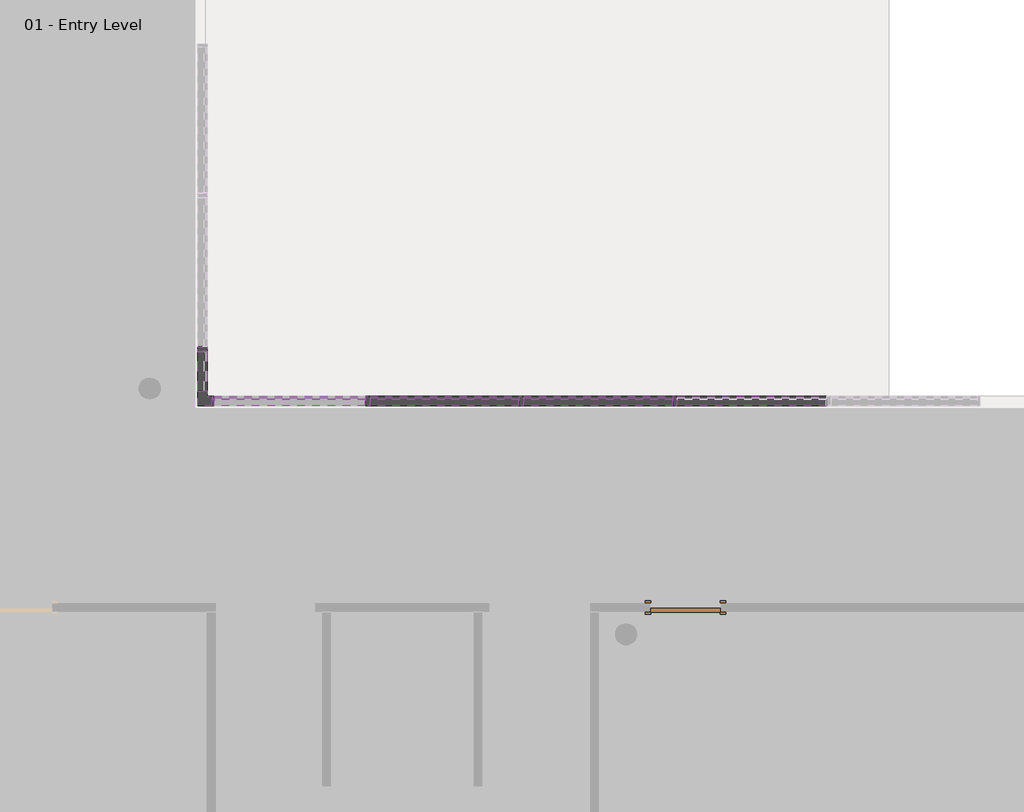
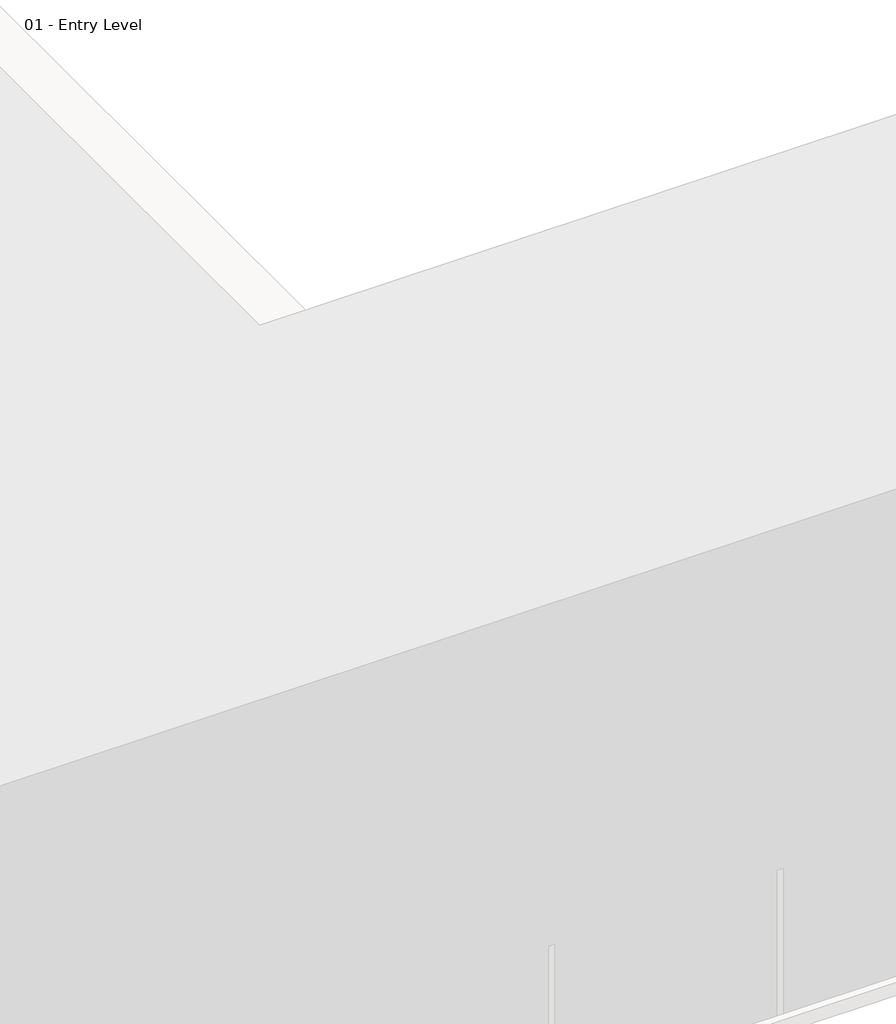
# One storey, part 9 of 34: 99 members, 28 plates, 1 door.
"""IFC4 building model written with IfcOpenShell, lengths in millimetres."""

from ifc_helpers import new_model, si_unit, origin, place, context, project, spatial, transform, mapped, element, save
from components import door_a1797ceb, member_863be36e, member_2b49869a, member_391b434c, member_9e90ae50, member_274b5bb4, member_3f1e2ae8, member_cfd492dc, member_3d213ca6, member_0f16ceef, member_ba732fc4, system_panel_glazed_1b9d6098, system_panel_glazed_70da479d, system_panel_glazed_75599714, system_panel_glazed_d6bfc804

model = new_model("IFC4")

# Units and contexts
model_context = context("Model", 3, world=origin())
ifc_project = project(units=[si_unit("LENGTHUNIT", "METRE", prefix="MILLI")], contexts=[model_context])

# Site, building, storey
site = spatial("IfcSite", under=ifc_project)
building = spatial("IfcBuilding", under=site)
storey = spatial("IfcBuildingStorey", under=building, Name="01 - Entry Level", Elevation=0.0)

# Door
placement = place(None, origin())
door_shape = door_a1797ceb(model_context)
element("IfcDoor", 1, ObjectType="Single-Flush : 36\" x 84\"", at=placement, inside=storey, context=model_context, shape_type="MappedRepresentation", body=[
    mapped(door_shape, transform((23572.1207476, 8270.8, 0.0), x_axis=(-1.0, 0.0, 0.0), y_axis=(0.0, -1.0, 0.0), z_axis=(0.0, 0.0, 1.0))),
])

# Members
member_shape = member_863be36e(model_context)
element("IfcMember", 2, ObjectType="L Corner Mullion : 5\" x 5\" Corner", at=placement, inside=storey, context=model_context, shape_type="MappedRepresentation", body=[
    mapped(member_shape, transform((17184.0207476, 11001.3, 6096.0), x_axis=(0.0, -1.0, 0.0), y_axis=(1.0, 0.0, 0.0), z_axis=(0.0, 0.0, 1.0))),
])
element("IfcMember", 3, ObjectType="L Corner Mullion : 5\" x 5\" Corner", at=placement, inside=storey, context=model_context, shape_type="MappedRepresentation", body=[
    mapped(member_shape, transform((17184.0207476, 11001.3, 1219.2), x_axis=(0.0, -1.0, 0.0), y_axis=(1.0, 0.0, 0.0), z_axis=(0.0, 0.0, 1.0))),
])
element("IfcMember", 4, ObjectType="L Corner Mullion : 5\" x 5\" Corner", at=placement, inside=storey, context=model_context, shape_type="MappedRepresentation", body=[
    mapped(member_shape, transform((17184.0207476, 11001.3, 8534.4), x_axis=(0.0, -1.0, 0.0), y_axis=(1.0, 0.0, 0.0), z_axis=(0.0, 0.0, 1.0))),
])
element("IfcMember", 5, ObjectType="L Corner Mullion : 5\" x 5\" Corner", at=placement, inside=storey, context=model_context, shape_type="MappedRepresentation", body=[
    mapped(member_shape, transform((17184.0207476, 11001.3, 2438.4), x_axis=(0.0, -1.0, 0.0), y_axis=(1.0, 0.0, 0.0), z_axis=(0.0, 0.0, 1.0))),
])
element("IfcMember", 6, ObjectType="L Corner Mullion : 5\" x 5\" Corner", at=placement, inside=storey, context=model_context, shape_type="MappedRepresentation", body=[
    mapped(member_shape, transform((17184.0207476, 11001.3, 3657.6), x_axis=(0.0, -1.0, 0.0), y_axis=(1.0, 0.0, 0.0), z_axis=(0.0, 0.0, 1.0))),
])
element("IfcMember", 7, ObjectType="L Corner Mullion : 5\" x 5\" Corner", at=placement, inside=storey, context=model_context, shape_type="MappedRepresentation", body=[
    mapped(member_shape, transform((17184.0207476, 11001.3, 4876.8), x_axis=(0.0, -1.0, 0.0), y_axis=(1.0, 0.0, 0.0), z_axis=(0.0, 0.0, 1.0))),
])
element("IfcMember", 8, ObjectType="L Corner Mullion : 5\" x 5\" Corner", at=placement, inside=storey, context=model_context, shape_type="MappedRepresentation", body=[
    mapped(member_shape, transform((17184.0207476, 11001.3, 9753.6), x_axis=(0.0, -1.0, 0.0), y_axis=(1.0, 0.0, 0.0), z_axis=(0.0, 0.0, 1.0))),
])
member_2_shape = member_2b49869a(model_context)
element("IfcMember", 9, ObjectType="Rectangular Mullion : 2.5\" x 5\" rectangular", at=placement, inside=storey, context=model_context, shape_type="MappedRepresentation", body=[
    mapped(member_2_shape, transform((23432.4207476, 11001.3, 9753.6), x_axis=(-1.0, 0.0, 0.0), y_axis=(0.0, 1.0, 0.0), z_axis=(0.0, 0.0, -1.0))),
])
element("IfcMember", 10, ObjectType="Rectangular Mullion : 2.5\" x 5\" rectangular", at=placement, inside=storey, context=model_context, shape_type="MappedRepresentation", body=[
    mapped(member_2_shape, transform((21400.4207476, 11001.3, 9753.6), x_axis=(-1.0, 0.0, 0.0), y_axis=(0.0, 1.0, 0.0), z_axis=(0.0, 0.0, -1.0))),
])
element("IfcMember", 11, ObjectType="Rectangular Mullion : 2.5\" x 5\" rectangular", at=placement, inside=storey, context=model_context, shape_type="MappedRepresentation", body=[
    mapped(member_2_shape, transform((19368.4207476, 11001.3, 9753.6), x_axis=(-1.0, 0.0, 0.0), y_axis=(0.0, 1.0, 0.0), z_axis=(0.0, 0.0, -1.0))),
])
element("IfcMember", 12, ObjectType="Rectangular Mullion : 2.5\" x 5\" rectangular", at=placement, inside=storey, context=model_context, shape_type="MappedRepresentation", body=[
    mapped(member_2_shape, transform((17184.0207476, 11687.1, 9753.6), x_axis=(0.0, 1.0, 0.0), y_axis=(1.0, 0.0, 0.0), z_axis=(0.0, 0.0, -1.0))),
])
member_3_shape = member_391b434c(model_context)
element("IfcMember", 13, ObjectType="Rectangular Mullion : 2.5\" x 5\" rectangular", at=placement, inside=storey, context=model_context, shape_type="MappedRepresentation", body=[
    mapped(member_3_shape, transform((23464.1707476, 11001.3, 10972.8), x_axis=(0.0, 0.0, 1.0), y_axis=(0.0, 1.0, 0.0), z_axis=(-1.0, 0.0, 0.0))),
])
element("IfcMember", 14, ObjectType="Rectangular Mullion : 2.5\" x 5\" rectangular", at=placement, inside=storey, context=model_context, shape_type="MappedRepresentation", body=[
    mapped(member_3_shape, transform((21432.1707476, 11001.3, 10972.8), x_axis=(0.0, 0.0, 1.0), y_axis=(0.0, 1.0, 0.0), z_axis=(-1.0, 0.0, 0.0))),
])
element("IfcMember", 15, ObjectType="Rectangular Mullion : 2.5\" x 5\" rectangular", at=placement, inside=storey, context=model_context, shape_type="MappedRepresentation", body=[
    mapped(member_3_shape, transform((19400.1707476, 11001.3, 10972.8), x_axis=(0.0, 0.0, 1.0), y_axis=(0.0, 1.0, 0.0), z_axis=(-1.0, 0.0, 0.0))),
])
element("IfcMember", 16, ObjectType="Rectangular Mullion : 2.5\" x 5\" rectangular", at=placement, inside=storey, context=model_context, shape_type="MappedRepresentation", body=[
    mapped(member_3_shape, transform((23400.6707476, 11001.3, 0.0), x_axis=(0.0, 0.0, -1.0), y_axis=(0.0, 1.0, 0.0), z_axis=(1.0, 0.0, 0.0))),
])
element("IfcMember", 17, ObjectType="Rectangular Mullion : 2.5\" x 5\" rectangular", at=placement, inside=storey, context=model_context, shape_type="MappedRepresentation", body=[
    mapped(member_3_shape, transform((21368.6707476, 11001.3, 0.0), x_axis=(0.0, 0.0, -1.0), y_axis=(0.0, 1.0, 0.0), z_axis=(1.0, 0.0, 0.0))),
])
element("IfcMember", 18, ObjectType="Rectangular Mullion : 2.5\" x 5\" rectangular", at=placement, inside=storey, context=model_context, shape_type="MappedRepresentation", body=[
    mapped(member_3_shape, transform((17184.0207476, 11718.85, 0.0), x_axis=(0.0, 0.0, -1.0), y_axis=(1.0, 0.0, 0.0), z_axis=(0.0, -1.0, 0.0))),
])
member_4_shape = member_9e90ae50(model_context)
element("IfcMember", 19, ObjectType="Rectangular Mullion : 2.5\" x 5\" rectangular", at=placement, inside=storey, context=model_context, shape_type="MappedRepresentation", body=[
    mapped(member_4_shape, transform((23464.1707476, 11001.3, 1219.2), x_axis=(0.0, 0.0, 1.0), y_axis=(0.0, 1.0, 0.0), z_axis=(-1.0, 0.0, 0.0))),
])
element("IfcMember", 20, ObjectType="Rectangular Mullion : 2.5\" x 5\" rectangular", at=placement, inside=storey, context=model_context, shape_type="MappedRepresentation", body=[
    mapped(member_4_shape, transform((21432.1707476, 11001.3, 1219.2), x_axis=(0.0, 0.0, 1.0), y_axis=(0.0, 1.0, 0.0), z_axis=(-1.0, 0.0, 0.0))),
])
element("IfcMember", 21, ObjectType="Rectangular Mullion : 2.5\" x 5\" rectangular", at=placement, inside=storey, context=model_context, shape_type="MappedRepresentation", body=[
    mapped(member_4_shape, transform((19400.1707476, 11001.3, 1219.2), x_axis=(0.0, 0.0, 1.0), y_axis=(0.0, 1.0, 0.0), z_axis=(-1.0, 0.0, 0.0))),
])
element("IfcMember", 22, ObjectType="Rectangular Mullion : 2.5\" x 5\" rectangular", at=placement, inside=storey, context=model_context, shape_type="MappedRepresentation", body=[
    mapped(member_4_shape, transform((23464.1707476, 11001.3, 2438.4), x_axis=(0.0, 0.0, 1.0), y_axis=(0.0, 1.0, 0.0), z_axis=(-1.0, 0.0, 0.0))),
])
element("IfcMember", 23, ObjectType="Rectangular Mullion : 2.5\" x 5\" rectangular", at=placement, inside=storey, context=model_context, shape_type="MappedRepresentation", body=[
    mapped(member_4_shape, transform((21432.1707476, 11001.3, 2438.4), x_axis=(0.0, 0.0, 1.0), y_axis=(0.0, 1.0, 0.0), z_axis=(-1.0, 0.0, 0.0))),
])
element("IfcMember", 24, ObjectType="Rectangular Mullion : 2.5\" x 5\" rectangular", at=placement, inside=storey, context=model_context, shape_type="MappedRepresentation", body=[
    mapped(member_4_shape, transform((19400.1707476, 11001.3, 2438.4), x_axis=(0.0, 0.0, 1.0), y_axis=(0.0, 1.0, 0.0), z_axis=(-1.0, 0.0, 0.0))),
])
element("IfcMember", 25, ObjectType="Rectangular Mullion : 2.5\" x 5\" rectangular", at=placement, inside=storey, context=model_context, shape_type="MappedRepresentation", body=[
    mapped(member_4_shape, transform((23464.1707476, 11001.3, 3657.6), x_axis=(0.0, 0.0, 1.0), y_axis=(0.0, 1.0, 0.0), z_axis=(-1.0, 0.0, 0.0))),
])
element("IfcMember", 26, ObjectType="Rectangular Mullion : 2.5\" x 5\" rectangular", at=placement, inside=storey, context=model_context, shape_type="MappedRepresentation", body=[
    mapped(member_4_shape, transform((21432.1707476, 11001.3, 3657.6), x_axis=(0.0, 0.0, 1.0), y_axis=(0.0, 1.0, 0.0), z_axis=(-1.0, 0.0, 0.0))),
])
element("IfcMember", 27, ObjectType="Rectangular Mullion : 2.5\" x 5\" rectangular", at=placement, inside=storey, context=model_context, shape_type="MappedRepresentation", body=[
    mapped(member_4_shape, transform((19400.1707476, 11001.3, 3657.6), x_axis=(0.0, 0.0, 1.0), y_axis=(0.0, 1.0, 0.0), z_axis=(-1.0, 0.0, 0.0))),
])
element("IfcMember", 28, ObjectType="Rectangular Mullion : 2.5\" x 5\" rectangular", at=placement, inside=storey, context=model_context, shape_type="MappedRepresentation", body=[
    mapped(member_4_shape, transform((23464.1707476, 11001.3, 4876.8), x_axis=(0.0, 0.0, 1.0), y_axis=(0.0, 1.0, 0.0), z_axis=(-1.0, 0.0, 0.0))),
])
element("IfcMember", 29, ObjectType="Rectangular Mullion : 2.5\" x 5\" rectangular", at=placement, inside=storey, context=model_context, shape_type="MappedRepresentation", body=[
    mapped(member_4_shape, transform((21432.1707476, 11001.3, 4876.8), x_axis=(0.0, 0.0, 1.0), y_axis=(0.0, 1.0, 0.0), z_axis=(-1.0, 0.0, 0.0))),
])
element("IfcMember", 30, ObjectType="Rectangular Mullion : 2.5\" x 5\" rectangular", at=placement, inside=storey, context=model_context, shape_type="MappedRepresentation", body=[
    mapped(member_4_shape, transform((19400.1707476, 11001.3, 4876.8), x_axis=(0.0, 0.0, 1.0), y_axis=(0.0, 1.0, 0.0), z_axis=(-1.0, 0.0, 0.0))),
])
element("IfcMember", 31, ObjectType="Rectangular Mullion : 2.5\" x 5\" rectangular", at=placement, inside=storey, context=model_context, shape_type="MappedRepresentation", body=[
    mapped(member_4_shape, transform((23464.1707476, 11001.3, 6096.0), x_axis=(0.0, 0.0, 1.0), y_axis=(0.0, 1.0, 0.0), z_axis=(-1.0, 0.0, 0.0))),
])
element("IfcMember", 32, ObjectType="Rectangular Mullion : 2.5\" x 5\" rectangular", at=placement, inside=storey, context=model_context, shape_type="MappedRepresentation", body=[
    mapped(member_4_shape, transform((21432.1707476, 11001.3, 6096.0), x_axis=(0.0, 0.0, 1.0), y_axis=(0.0, 1.0, 0.0), z_axis=(-1.0, 0.0, 0.0))),
])
element("IfcMember", 33, ObjectType="Rectangular Mullion : 2.5\" x 5\" rectangular", at=placement, inside=storey, context=model_context, shape_type="MappedRepresentation", body=[
    mapped(member_4_shape, transform((19400.1707476, 11001.3, 6096.0), x_axis=(0.0, 0.0, 1.0), y_axis=(0.0, 1.0, 0.0), z_axis=(-1.0, 0.0, 0.0))),
])
element("IfcMember", 34, ObjectType="Rectangular Mullion : 2.5\" x 5\" rectangular", at=placement, inside=storey, context=model_context, shape_type="MappedRepresentation", body=[
    mapped(member_4_shape, transform((23464.1707476, 11001.3, 7315.2), x_axis=(0.0, 0.0, 1.0), y_axis=(0.0, 1.0, 0.0), z_axis=(-1.0, 0.0, 0.0))),
])
element("IfcMember", 35, ObjectType="Rectangular Mullion : 2.5\" x 5\" rectangular", at=placement, inside=storey, context=model_context, shape_type="MappedRepresentation", body=[
    mapped(member_4_shape, transform((21432.1707476, 11001.3, 7315.2), x_axis=(0.0, 0.0, 1.0), y_axis=(0.0, 1.0, 0.0), z_axis=(-1.0, 0.0, 0.0))),
])
element("IfcMember", 36, ObjectType="Rectangular Mullion : 2.5\" x 5\" rectangular", at=placement, inside=storey, context=model_context, shape_type="MappedRepresentation", body=[
    mapped(member_4_shape, transform((19400.1707476, 11001.3, 7315.2), x_axis=(0.0, 0.0, 1.0), y_axis=(0.0, 1.0, 0.0), z_axis=(-1.0, 0.0, 0.0))),
])
element("IfcMember", 37, ObjectType="Rectangular Mullion : 2.5\" x 5\" rectangular", at=placement, inside=storey, context=model_context, shape_type="MappedRepresentation", body=[
    mapped(member_4_shape, transform((23464.1707476, 11001.3, 8534.4), x_axis=(0.0, 0.0, 1.0), y_axis=(0.0, 1.0, 0.0), z_axis=(-1.0, 0.0, 0.0))),
])
element("IfcMember", 38, ObjectType="Rectangular Mullion : 2.5\" x 5\" rectangular", at=placement, inside=storey, context=model_context, shape_type="MappedRepresentation", body=[
    mapped(member_4_shape, transform((21432.1707476, 11001.3, 8534.4), x_axis=(0.0, 0.0, 1.0), y_axis=(0.0, 1.0, 0.0), z_axis=(-1.0, 0.0, 0.0))),
])
element("IfcMember", 39, ObjectType="Rectangular Mullion : 2.5\" x 5\" rectangular", at=placement, inside=storey, context=model_context, shape_type="MappedRepresentation", body=[
    mapped(member_4_shape, transform((19400.1707476, 11001.3, 8534.4), x_axis=(0.0, 0.0, 1.0), y_axis=(0.0, 1.0, 0.0), z_axis=(-1.0, 0.0, 0.0))),
])
element("IfcMember", 40, ObjectType="Rectangular Mullion : 2.5\" x 5\" rectangular", at=placement, inside=storey, context=model_context, shape_type="MappedRepresentation", body=[
    mapped(member_4_shape, transform((23464.1707476, 11001.3, 9753.6), x_axis=(0.0, 0.0, 1.0), y_axis=(0.0, 1.0, 0.0), z_axis=(-1.0, 0.0, 0.0))),
])
element("IfcMember", 41, ObjectType="Rectangular Mullion : 2.5\" x 5\" rectangular", at=placement, inside=storey, context=model_context, shape_type="MappedRepresentation", body=[
    mapped(member_4_shape, transform((21432.1707476, 11001.3, 9753.6), x_axis=(0.0, 0.0, 1.0), y_axis=(0.0, 1.0, 0.0), z_axis=(-1.0, 0.0, 0.0))),
])
element("IfcMember", 42, ObjectType="Rectangular Mullion : 2.5\" x 5\" rectangular", at=placement, inside=storey, context=model_context, shape_type="MappedRepresentation", body=[
    mapped(member_4_shape, transform((19400.1707476, 11001.3, 9753.6), x_axis=(0.0, 0.0, 1.0), y_axis=(0.0, 1.0, 0.0), z_axis=(-1.0, 0.0, 0.0))),
])
element("IfcMember", 43, ObjectType="Rectangular Mullion : 2.5\" x 5\" rectangular", at=placement, inside=storey, context=model_context, shape_type="MappedRepresentation", body=[
    mapped(member_2_shape, transform((23432.4207476, 11001.3, 0.0), x_axis=(-1.0, 0.0, 0.0), y_axis=(0.0, 1.0, 0.0), z_axis=(0.0, 0.0, -1.0))),
])
element("IfcMember", 44, ObjectType="Rectangular Mullion : 2.5\" x 5\" rectangular", at=placement, inside=storey, context=model_context, shape_type="MappedRepresentation", body=[
    mapped(member_2_shape, transform((21400.4207476, 11001.3, 0.0), x_axis=(-1.0, 0.0, 0.0), y_axis=(0.0, 1.0, 0.0), z_axis=(0.0, 0.0, -1.0))),
])
element("IfcMember", 45, ObjectType="Rectangular Mullion : 2.5\" x 5\" rectangular", at=placement, inside=storey, context=model_context, shape_type="MappedRepresentation", body=[
    mapped(member_2_shape, transform((19368.4207476, 11001.3, 0.0), x_axis=(-1.0, 0.0, 0.0), y_axis=(0.0, 1.0, 0.0), z_axis=(0.0, 0.0, -1.0))),
])
element("IfcMember", 46, ObjectType="Rectangular Mullion : 2.5\" x 5\" rectangular", at=placement, inside=storey, context=model_context, shape_type="MappedRepresentation", body=[
    mapped(member_2_shape, transform((17184.0207476, 11687.1, 0.0), x_axis=(0.0, 1.0, 0.0), y_axis=(1.0, 0.0, 0.0), z_axis=(0.0, 0.0, -1.0))),
])
element("IfcMember", 47, ObjectType="Rectangular Mullion : 2.5\" x 5\" rectangular", at=placement, inside=storey, context=model_context, shape_type="MappedRepresentation", body=[
    mapped(member_2_shape, transform((23432.4207476, 11001.3, 1219.2), x_axis=(-1.0, 0.0, 0.0), y_axis=(0.0, 1.0, 0.0), z_axis=(0.0, 0.0, -1.0))),
])
element("IfcMember", 48, ObjectType="Rectangular Mullion : 2.5\" x 5\" rectangular", at=placement, inside=storey, context=model_context, shape_type="MappedRepresentation", body=[
    mapped(member_2_shape, transform((21400.4207476, 11001.3, 1219.2), x_axis=(-1.0, 0.0, 0.0), y_axis=(0.0, 1.0, 0.0), z_axis=(0.0, 0.0, -1.0))),
])
element("IfcMember", 49, ObjectType="Rectangular Mullion : 2.5\" x 5\" rectangular", at=placement, inside=storey, context=model_context, shape_type="MappedRepresentation", body=[
    mapped(member_2_shape, transform((19368.4207476, 11001.3, 1219.2), x_axis=(-1.0, 0.0, 0.0), y_axis=(0.0, 1.0, 0.0), z_axis=(0.0, 0.0, -1.0))),
])
element("IfcMember", 50, ObjectType="Rectangular Mullion : 2.5\" x 5\" rectangular", at=placement, inside=storey, context=model_context, shape_type="MappedRepresentation", body=[
    mapped(member_2_shape, transform((23432.4207476, 11001.3, 2438.4), x_axis=(-1.0, 0.0, 0.0), y_axis=(0.0, 1.0, 0.0), z_axis=(0.0, 0.0, -1.0))),
])
element("IfcMember", 51, ObjectType="Rectangular Mullion : 2.5\" x 5\" rectangular", at=placement, inside=storey, context=model_context, shape_type="MappedRepresentation", body=[
    mapped(member_2_shape, transform((21400.4207476, 11001.3, 2438.4), x_axis=(-1.0, 0.0, 0.0), y_axis=(0.0, 1.0, 0.0), z_axis=(0.0, 0.0, -1.0))),
])
element("IfcMember", 52, ObjectType="Rectangular Mullion : 2.5\" x 5\" rectangular", at=placement, inside=storey, context=model_context, shape_type="MappedRepresentation", body=[
    mapped(member_2_shape, transform((19368.4207476, 11001.3, 2438.4), x_axis=(-1.0, 0.0, 0.0), y_axis=(0.0, 1.0, 0.0), z_axis=(0.0, 0.0, -1.0))),
])
element("IfcMember", 53, ObjectType="Rectangular Mullion : 2.5\" x 5\" rectangular", at=placement, inside=storey, context=model_context, shape_type="MappedRepresentation", body=[
    mapped(member_2_shape, transform((23432.4207476, 11001.3, 3657.6), x_axis=(-1.0, 0.0, 0.0), y_axis=(0.0, 1.0, 0.0), z_axis=(0.0, 0.0, -1.0))),
])
element("IfcMember", 54, ObjectType="Rectangular Mullion : 2.5\" x 5\" rectangular", at=placement, inside=storey, context=model_context, shape_type="MappedRepresentation", body=[
    mapped(member_2_shape, transform((21400.4207476, 11001.3, 3657.6), x_axis=(-1.0, 0.0, 0.0), y_axis=(0.0, 1.0, 0.0), z_axis=(0.0, 0.0, -1.0))),
])
element("IfcMember", 55, ObjectType="Rectangular Mullion : 2.5\" x 5\" rectangular", at=placement, inside=storey, context=model_context, shape_type="MappedRepresentation", body=[
    mapped(member_2_shape, transform((19368.4207476, 11001.3, 3657.6), x_axis=(-1.0, 0.0, 0.0), y_axis=(0.0, 1.0, 0.0), z_axis=(0.0, 0.0, -1.0))),
])
element("IfcMember", 56, ObjectType="Rectangular Mullion : 2.5\" x 5\" rectangular", at=placement, inside=storey, context=model_context, shape_type="MappedRepresentation", body=[
    mapped(member_2_shape, transform((23432.4207476, 11001.3, 4876.8), x_axis=(-1.0, 0.0, 0.0), y_axis=(0.0, 1.0, 0.0), z_axis=(0.0, 0.0, -1.0))),
])
element("IfcMember", 57, ObjectType="Rectangular Mullion : 2.5\" x 5\" rectangular", at=placement, inside=storey, context=model_context, shape_type="MappedRepresentation", body=[
    mapped(member_2_shape, transform((21400.4207476, 11001.3, 4876.8), x_axis=(-1.0, 0.0, 0.0), y_axis=(0.0, 1.0, 0.0), z_axis=(0.0, 0.0, -1.0))),
])
element("IfcMember", 58, ObjectType="Rectangular Mullion : 2.5\" x 5\" rectangular", at=placement, inside=storey, context=model_context, shape_type="MappedRepresentation", body=[
    mapped(member_2_shape, transform((19368.4207476, 11001.3, 4876.8), x_axis=(-1.0, 0.0, 0.0), y_axis=(0.0, 1.0, 0.0), z_axis=(0.0, 0.0, -1.0))),
])
element("IfcMember", 59, ObjectType="Rectangular Mullion : 2.5\" x 5\" rectangular", at=placement, inside=storey, context=model_context, shape_type="MappedRepresentation", body=[
    mapped(member_2_shape, transform((23432.4207476, 11001.3, 6096.0), x_axis=(-1.0, 0.0, 0.0), y_axis=(0.0, 1.0, 0.0), z_axis=(0.0, 0.0, -1.0))),
])
element("IfcMember", 60, ObjectType="Rectangular Mullion : 2.5\" x 5\" rectangular", at=placement, inside=storey, context=model_context, shape_type="MappedRepresentation", body=[
    mapped(member_2_shape, transform((21400.4207476, 11001.3, 6096.0), x_axis=(-1.0, 0.0, 0.0), y_axis=(0.0, 1.0, 0.0), z_axis=(0.0, 0.0, -1.0))),
])
element("IfcMember", 61, ObjectType="Rectangular Mullion : 2.5\" x 5\" rectangular", at=placement, inside=storey, context=model_context, shape_type="MappedRepresentation", body=[
    mapped(member_2_shape, transform((19368.4207476, 11001.3, 6096.0), x_axis=(-1.0, 0.0, 0.0), y_axis=(0.0, 1.0, 0.0), z_axis=(0.0, 0.0, -1.0))),
])
element("IfcMember", 62, ObjectType="Rectangular Mullion : 2.5\" x 5\" rectangular", at=placement, inside=storey, context=model_context, shape_type="MappedRepresentation", body=[
    mapped(member_2_shape, transform((23432.4207476, 11001.3, 7315.2), x_axis=(-1.0, 0.0, 0.0), y_axis=(0.0, 1.0, 0.0), z_axis=(0.0, 0.0, -1.0))),
])
element("IfcMember", 63, ObjectType="Rectangular Mullion : 2.5\" x 5\" rectangular", at=placement, inside=storey, context=model_context, shape_type="MappedRepresentation", body=[
    mapped(member_2_shape, transform((21400.4207476, 11001.3, 7315.2), x_axis=(-1.0, 0.0, 0.0), y_axis=(0.0, 1.0, 0.0), z_axis=(0.0, 0.0, -1.0))),
])
element("IfcMember", 64, ObjectType="Rectangular Mullion : 2.5\" x 5\" rectangular", at=placement, inside=storey, context=model_context, shape_type="MappedRepresentation", body=[
    mapped(member_2_shape, transform((19368.4207476, 11001.3, 7315.2), x_axis=(-1.0, 0.0, 0.0), y_axis=(0.0, 1.0, 0.0), z_axis=(0.0, 0.0, -1.0))),
])
element("IfcMember", 65, ObjectType="Rectangular Mullion : 2.5\" x 5\" rectangular", at=placement, inside=storey, context=model_context, shape_type="MappedRepresentation", body=[
    mapped(member_2_shape, transform((23432.4207476, 11001.3, 8534.4), x_axis=(-1.0, 0.0, 0.0), y_axis=(0.0, 1.0, 0.0), z_axis=(0.0, 0.0, -1.0))),
])
element("IfcMember", 66, ObjectType="Rectangular Mullion : 2.5\" x 5\" rectangular", at=placement, inside=storey, context=model_context, shape_type="MappedRepresentation", body=[
    mapped(member_2_shape, transform((21400.4207476, 11001.3, 8534.4), x_axis=(-1.0, 0.0, 0.0), y_axis=(0.0, 1.0, 0.0), z_axis=(0.0, 0.0, -1.0))),
])
element("IfcMember", 67, ObjectType="Rectangular Mullion : 2.5\" x 5\" rectangular", at=placement, inside=storey, context=model_context, shape_type="MappedRepresentation", body=[
    mapped(member_2_shape, transform((19368.4207476, 11001.3, 8534.4), x_axis=(-1.0, 0.0, 0.0), y_axis=(0.0, 1.0, 0.0), z_axis=(0.0, 0.0, -1.0))),
])
element("IfcMember", 68, ObjectType="Rectangular Mullion : 2.5\" x 5\" rectangular", at=placement, inside=storey, context=model_context, shape_type="MappedRepresentation", body=[
    mapped(member_2_shape, transform((17184.0207476, 11687.1, 1219.2), x_axis=(0.0, 1.0, 0.0), y_axis=(1.0, 0.0, 0.0), z_axis=(0.0, 0.0, -1.0))),
])
element("IfcMember", 69, ObjectType="Rectangular Mullion : 2.5\" x 5\" rectangular", at=placement, inside=storey, context=model_context, shape_type="MappedRepresentation", body=[
    mapped(member_2_shape, transform((17184.0207476, 11687.1, 2438.4), x_axis=(0.0, 1.0, 0.0), y_axis=(1.0, 0.0, 0.0), z_axis=(0.0, 0.0, -1.0))),
])
element("IfcMember", 70, ObjectType="Rectangular Mullion : 2.5\" x 5\" rectangular", at=placement, inside=storey, context=model_context, shape_type="MappedRepresentation", body=[
    mapped(member_2_shape, transform((17184.0207476, 11687.1, 3657.6), x_axis=(0.0, 1.0, 0.0), y_axis=(1.0, 0.0, 0.0), z_axis=(0.0, 0.0, -1.0))),
])
element("IfcMember", 71, ObjectType="Rectangular Mullion : 2.5\" x 5\" rectangular", at=placement, inside=storey, context=model_context, shape_type="MappedRepresentation", body=[
    mapped(member_2_shape, transform((17184.0207476, 11687.1, 4876.8), x_axis=(0.0, 1.0, 0.0), y_axis=(1.0, 0.0, 0.0), z_axis=(0.0, 0.0, -1.0))),
])
element("IfcMember", 72, ObjectType="Rectangular Mullion : 2.5\" x 5\" rectangular", at=placement, inside=storey, context=model_context, shape_type="MappedRepresentation", body=[
    mapped(member_2_shape, transform((17184.0207476, 11687.1, 6096.0), x_axis=(0.0, 1.0, 0.0), y_axis=(1.0, 0.0, 0.0), z_axis=(0.0, 0.0, -1.0))),
])
element("IfcMember", 73, ObjectType="Rectangular Mullion : 2.5\" x 5\" rectangular", at=placement, inside=storey, context=model_context, shape_type="MappedRepresentation", body=[
    mapped(member_2_shape, transform((17184.0207476, 11687.1, 7315.2), x_axis=(0.0, 1.0, 0.0), y_axis=(1.0, 0.0, 0.0), z_axis=(0.0, 0.0, -1.0))),
])
element("IfcMember", 74, ObjectType="Rectangular Mullion : 2.5\" x 5\" rectangular", at=placement, inside=storey, context=model_context, shape_type="MappedRepresentation", body=[
    mapped(member_2_shape, transform((17184.0207476, 11687.1, 8534.4), x_axis=(0.0, 1.0, 0.0), y_axis=(1.0, 0.0, 0.0), z_axis=(0.0, 0.0, -1.0))),
])
member_5_shape = member_274b5bb4(model_context)
element("IfcMember", 75, ObjectType="Rectangular Mullion : 2.5\" x 5\" rectangular", at=placement, inside=storey, context=model_context, shape_type="MappedRepresentation", body=[
    mapped(member_5_shape, transform((17184.0207476, 11655.35, 10972.8), x_axis=(0.0, 0.0, 1.0), y_axis=(1.0, 0.0, 0.0), z_axis=(0.0, 1.0, 0.0))),
])
member_6_shape = member_3f1e2ae8(model_context)
element("IfcMember", 76, ObjectType="Rectangular Mullion : 2.5\" x 5\" rectangular", at=placement, inside=storey, context=model_context, shape_type="MappedRepresentation", body=[
    mapped(member_6_shape, transform((17184.0207476, 11655.35, 1219.2), x_axis=(0.0, 0.0, 1.0), y_axis=(1.0, 0.0, 0.0), z_axis=(0.0, 1.0, 0.0))),
])
element("IfcMember", 77, ObjectType="Rectangular Mullion : 2.5\" x 5\" rectangular", at=placement, inside=storey, context=model_context, shape_type="MappedRepresentation", body=[
    mapped(member_6_shape, transform((17184.0207476, 11655.35, 2438.4), x_axis=(0.0, 0.0, 1.0), y_axis=(1.0, 0.0, 0.0), z_axis=(0.0, 1.0, 0.0))),
])
element("IfcMember", 78, ObjectType="Rectangular Mullion : 2.5\" x 5\" rectangular", at=placement, inside=storey, context=model_context, shape_type="MappedRepresentation", body=[
    mapped(member_6_shape, transform((17184.0207476, 11655.35, 3657.6), x_axis=(0.0, 0.0, 1.0), y_axis=(1.0, 0.0, 0.0), z_axis=(0.0, 1.0, 0.0))),
])
element("IfcMember", 79, ObjectType="Rectangular Mullion : 2.5\" x 5\" rectangular", at=placement, inside=storey, context=model_context, shape_type="MappedRepresentation", body=[
    mapped(member_6_shape, transform((17184.0207476, 11655.35, 4876.8), x_axis=(0.0, 0.0, 1.0), y_axis=(1.0, 0.0, 0.0), z_axis=(0.0, 1.0, 0.0))),
])
element("IfcMember", 80, ObjectType="Rectangular Mullion : 2.5\" x 5\" rectangular", at=placement, inside=storey, context=model_context, shape_type="MappedRepresentation", body=[
    mapped(member_6_shape, transform((17184.0207476, 11655.35, 6096.0), x_axis=(0.0, 0.0, 1.0), y_axis=(1.0, 0.0, 0.0), z_axis=(0.0, 1.0, 0.0))),
])
element("IfcMember", 81, ObjectType="Rectangular Mullion : 2.5\" x 5\" rectangular", at=placement, inside=storey, context=model_context, shape_type="MappedRepresentation", body=[
    mapped(member_6_shape, transform((17184.0207476, 11655.35, 7315.2), x_axis=(0.0, 0.0, 1.0), y_axis=(1.0, 0.0, 0.0), z_axis=(0.0, 1.0, 0.0))),
])
element("IfcMember", 82, ObjectType="Rectangular Mullion : 2.5\" x 5\" rectangular", at=placement, inside=storey, context=model_context, shape_type="MappedRepresentation", body=[
    mapped(member_6_shape, transform((17184.0207476, 11655.35, 8534.4), x_axis=(0.0, 0.0, 1.0), y_axis=(1.0, 0.0, 0.0), z_axis=(0.0, 1.0, 0.0))),
])
element("IfcMember", 83, ObjectType="Rectangular Mullion : 2.5\" x 5\" rectangular", at=placement, inside=storey, context=model_context, shape_type="MappedRepresentation", body=[
    mapped(member_6_shape, transform((17184.0207476, 11655.35, 9753.6), x_axis=(0.0, 0.0, 1.0), y_axis=(1.0, 0.0, 0.0), z_axis=(0.0, 1.0, 0.0))),
])
member_7_shape = member_cfd492dc(model_context)
element("IfcMember", 84, ObjectType="Rectangular Mullion : 2.5\" x 5\" rectangular", at=placement, inside=storey, context=model_context, shape_type="MappedRepresentation", body=[
    mapped(member_7_shape, transform((17336.4207476, 11001.3, 10972.8), x_axis=(0.0, 0.0, 1.0), y_axis=(0.0, 1.0, 0.0), z_axis=(-1.0, 0.0, 0.0))),
])
member_8_shape = member_3d213ca6(model_context)
element("IfcMember", 85, ObjectType="Rectangular Mullion : 2.5\" x 5\" rectangular", at=placement, inside=storey, context=model_context, shape_type="MappedRepresentation", body=[
    mapped(member_8_shape, transform((17336.4207476, 11001.3, 3657.6), x_axis=(0.0, 0.0, 1.0), y_axis=(0.0, 1.0, 0.0), z_axis=(-1.0, 0.0, 0.0))),
])
element("IfcMember", 86, ObjectType="Rectangular Mullion : 2.5\" x 5\" rectangular", at=placement, inside=storey, context=model_context, shape_type="MappedRepresentation", body=[
    mapped(member_8_shape, transform((17336.4207476, 11001.3, 4876.8), x_axis=(0.0, 0.0, 1.0), y_axis=(0.0, 1.0, 0.0), z_axis=(-1.0, 0.0, 0.0))),
])
element("IfcMember", 87, ObjectType="Rectangular Mullion : 2.5\" x 5\" rectangular", at=placement, inside=storey, context=model_context, shape_type="MappedRepresentation", body=[
    mapped(member_8_shape, transform((17336.4207476, 11001.3, 6096.0), x_axis=(0.0, 0.0, 1.0), y_axis=(0.0, 1.0, 0.0), z_axis=(-1.0, 0.0, 0.0))),
])
element("IfcMember", 88, ObjectType="Rectangular Mullion : 2.5\" x 5\" rectangular", at=placement, inside=storey, context=model_context, shape_type="MappedRepresentation", body=[
    mapped(member_8_shape, transform((17336.4207476, 11001.3, 7315.2), x_axis=(0.0, 0.0, 1.0), y_axis=(0.0, 1.0, 0.0), z_axis=(-1.0, 0.0, 0.0))),
])
element("IfcMember", 89, ObjectType="Rectangular Mullion : 2.5\" x 5\" rectangular", at=placement, inside=storey, context=model_context, shape_type="MappedRepresentation", body=[
    mapped(member_8_shape, transform((17336.4207476, 11001.3, 8534.4), x_axis=(0.0, 0.0, 1.0), y_axis=(0.0, 1.0, 0.0), z_axis=(-1.0, 0.0, 0.0))),
])
element("IfcMember", 90, ObjectType="Rectangular Mullion : 2.5\" x 5\" rectangular", at=placement, inside=storey, context=model_context, shape_type="MappedRepresentation", body=[
    mapped(member_8_shape, transform((17336.4207476, 11001.3, 9753.6), x_axis=(0.0, 0.0, 1.0), y_axis=(0.0, 1.0, 0.0), z_axis=(-1.0, 0.0, 0.0))),
])
element("IfcMember", 91, ObjectType="Rectangular Mullion : 2.5\" x 5\" rectangular", at=placement, inside=storey, context=model_context, shape_type="MappedRepresentation", body=[
    mapped(member_7_shape, transform((19336.6707476, 11001.3, 0.0), x_axis=(0.0, 0.0, -1.0), y_axis=(0.0, 1.0, 0.0), z_axis=(1.0, 0.0, 0.0))),
])
member_9_shape = member_0f16ceef(model_context)
element("IfcMember", 92, ObjectType="Rectangular Mullion : 2.5\" x 5\" rectangular", at=placement, inside=storey, context=model_context, shape_type="MappedRepresentation", body=[
    mapped(member_9_shape, transform((17311.0207476, 11001.3, 1219.2), x_axis=(0.0, 0.0, 1.0), y_axis=(0.0, 1.0, 0.0), z_axis=(-1.0, 0.0, 0.0))),
])
element("IfcMember", 93, ObjectType="Rectangular Mullion : 2.5\" x 5\" rectangular", at=placement, inside=storey, context=model_context, shape_type="MappedRepresentation", body=[
    mapped(member_9_shape, transform((17311.0207476, 11001.3, 2438.4), x_axis=(0.0, 0.0, 1.0), y_axis=(0.0, 1.0, 0.0), z_axis=(-1.0, 0.0, 0.0))),
])
element("IfcMember", 94, ObjectType="Rectangular Mullion : 2.5\" x 5\" rectangular", at=placement, inside=storey, context=model_context, shape_type="MappedRepresentation", body=[
    mapped(member_9_shape, transform((17311.0207476, 11001.3, 3657.6), x_axis=(0.0, 0.0, 1.0), y_axis=(0.0, 1.0, 0.0), z_axis=(-1.0, 0.0, 0.0))),
])
element("IfcMember", 95, ObjectType="Rectangular Mullion : 2.5\" x 5\" rectangular", at=placement, inside=storey, context=model_context, shape_type="MappedRepresentation", body=[
    mapped(member_9_shape, transform((17311.0207476, 11001.3, 4876.8), x_axis=(0.0, 0.0, 1.0), y_axis=(0.0, 1.0, 0.0), z_axis=(-1.0, 0.0, 0.0))),
])
element("IfcMember", 96, ObjectType="Rectangular Mullion : 2.5\" x 5\" rectangular", at=placement, inside=storey, context=model_context, shape_type="MappedRepresentation", body=[
    mapped(member_9_shape, transform((17311.0207476, 11001.3, 6096.0), x_axis=(0.0, 0.0, 1.0), y_axis=(0.0, 1.0, 0.0), z_axis=(-1.0, 0.0, 0.0))),
])
element("IfcMember", 97, ObjectType="Rectangular Mullion : 2.5\" x 5\" rectangular", at=placement, inside=storey, context=model_context, shape_type="MappedRepresentation", body=[
    mapped(member_9_shape, transform((17311.0207476, 11001.3, 7315.2), x_axis=(0.0, 0.0, 1.0), y_axis=(0.0, 1.0, 0.0), z_axis=(-1.0, 0.0, 0.0))),
])
element("IfcMember", 98, ObjectType="Rectangular Mullion : 2.5\" x 5\" rectangular", at=placement, inside=storey, context=model_context, shape_type="MappedRepresentation", body=[
    mapped(member_9_shape, transform((17311.0207476, 11001.3, 8534.4), x_axis=(0.0, 0.0, 1.0), y_axis=(0.0, 1.0, 0.0), z_axis=(-1.0, 0.0, 0.0))),
])
element("IfcMember", 99, ObjectType="Rectangular Mullion : 2.5\" x 5\" rectangular", at=placement, inside=storey, context=model_context, shape_type="MappedRepresentation", body=[
    mapped(member_9_shape, transform((17311.0207476, 11001.3, 9753.6), x_axis=(0.0, 0.0, 1.0), y_axis=(0.0, 1.0, 0.0), z_axis=(-1.0, 0.0, 0.0))),
])
member_10_shape = member_ba732fc4(model_context)
element("IfcMember", 100, ObjectType="Rectangular Mullion : 2.5\" x 5\" rectangular", at=placement, inside=storey, context=model_context, shape_type="MappedRepresentation", body=[
    mapped(member_10_shape, transform((17336.4207476, 11001.3, 0.0), x_axis=(0.0, 0.0, -1.0), y_axis=(0.0, 1.0, 0.0), z_axis=(1.0, 0.0, 0.0))),
])

# Plates
system_panel_glazed_shape = system_panel_glazed_1b9d6098(model_context)
element("IfcPlate", 101, ObjectType="System Panel : Glazed", at=placement, inside=storey, context=model_context, shape_type="MappedRepresentation", body=[
    mapped(system_panel_glazed_shape, transform((22416.4207476, 11001.3, 63.5), x_axis=(-1.0, 0.0, 0.0), y_axis=(0.0, -1.0, 0.0), z_axis=(0.0, 0.0, 1.0))),
])
element("IfcPlate", 102, ObjectType="System Panel : Glazed", at=placement, inside=storey, context=model_context, shape_type="MappedRepresentation", body=[
    mapped(system_panel_glazed_shape, transform((20384.4207476, 11001.3, 63.5), x_axis=(-1.0, 0.0, 0.0), y_axis=(0.0, -1.0, 0.0), z_axis=(0.0, 0.0, 1.0))),
])
element("IfcPlate", 103, ObjectType="System Panel : Glazed", at=placement, inside=storey, context=model_context, shape_type="MappedRepresentation", body=[
    mapped(system_panel_glazed_shape, transform((22416.4207476, 11001.3, 9785.35), x_axis=(-1.0, 0.0, 0.0), y_axis=(0.0, -1.0, 0.0), z_axis=(0.0, 0.0, 1.0))),
])
element("IfcPlate", 104, ObjectType="System Panel : Glazed", at=placement, inside=storey, context=model_context, shape_type="MappedRepresentation", body=[
    mapped(system_panel_glazed_shape, transform((20384.4207476, 11001.3, 9785.35), x_axis=(-1.0, 0.0, 0.0), y_axis=(0.0, -1.0, 0.0), z_axis=(0.0, 0.0, 1.0))),
])
element("IfcPlate", 105, ObjectType="System Panel : Glazed", at=placement, inside=storey, context=model_context, shape_type="MappedRepresentation", body=[
    mapped(system_panel_glazed_shape, transform((17184.0207476, 12703.1, 63.5), x_axis=(0.0, 1.0, 0.0), y_axis=(-1.0, 0.0, 0.0), z_axis=(0.0, 0.0, 1.0))),
])
system_panel_glazed_2_shape = system_panel_glazed_70da479d(model_context)
element("IfcPlate", 106, ObjectType="System Panel : Glazed", at=placement, inside=storey, context=model_context, shape_type="MappedRepresentation", body=[
    mapped(system_panel_glazed_2_shape, transform((22416.4207476, 11001.3, 1250.95), x_axis=(-1.0, 0.0, 0.0), y_axis=(0.0, -1.0, 0.0), z_axis=(0.0, 0.0, 1.0))),
])
element("IfcPlate", 107, ObjectType="System Panel : Glazed", at=placement, inside=storey, context=model_context, shape_type="MappedRepresentation", body=[
    mapped(system_panel_glazed_2_shape, transform((20384.4207476, 11001.3, 1250.95), x_axis=(-1.0, 0.0, 0.0), y_axis=(0.0, -1.0, 0.0), z_axis=(0.0, 0.0, 1.0))),
])
element("IfcPlate", 108, ObjectType="System Panel : Glazed", at=placement, inside=storey, context=model_context, shape_type="MappedRepresentation", body=[
    mapped(system_panel_glazed_2_shape, transform((22416.4207476, 11001.3, 2470.15), x_axis=(-1.0, 0.0, 0.0), y_axis=(0.0, -1.0, 0.0), z_axis=(0.0, 0.0, 1.0))),
])
element("IfcPlate", 109, ObjectType="System Panel : Glazed", at=placement, inside=storey, context=model_context, shape_type="MappedRepresentation", body=[
    mapped(system_panel_glazed_2_shape, transform((20384.4207476, 11001.3, 2470.15), x_axis=(-1.0, 0.0, 0.0), y_axis=(0.0, -1.0, 0.0), z_axis=(0.0, 0.0, 1.0))),
])
element("IfcPlate", 110, ObjectType="System Panel : Glazed", at=placement, inside=storey, context=model_context, shape_type="MappedRepresentation", body=[
    mapped(system_panel_glazed_2_shape, transform((22416.4207476, 11001.3, 3689.35), x_axis=(-1.0, 0.0, 0.0), y_axis=(0.0, -1.0, 0.0), z_axis=(0.0, 0.0, 1.0))),
])
element("IfcPlate", 111, ObjectType="System Panel : Glazed", at=placement, inside=storey, context=model_context, shape_type="MappedRepresentation", body=[
    mapped(system_panel_glazed_2_shape, transform((20384.4207476, 11001.3, 3689.35), x_axis=(-1.0, 0.0, 0.0), y_axis=(0.0, -1.0, 0.0), z_axis=(0.0, 0.0, 1.0))),
])
element("IfcPlate", 112, ObjectType="System Panel : Glazed", at=placement, inside=storey, context=model_context, shape_type="MappedRepresentation", body=[
    mapped(system_panel_glazed_2_shape, transform((22416.4207476, 11001.3, 4908.55), x_axis=(-1.0, 0.0, 0.0), y_axis=(0.0, -1.0, 0.0), z_axis=(0.0, 0.0, 1.0))),
])
element("IfcPlate", 113, ObjectType="System Panel : Glazed", at=placement, inside=storey, context=model_context, shape_type="MappedRepresentation", body=[
    mapped(system_panel_glazed_2_shape, transform((20384.4207476, 11001.3, 4908.55), x_axis=(-1.0, 0.0, 0.0), y_axis=(0.0, -1.0, 0.0), z_axis=(0.0, 0.0, 1.0))),
])
element("IfcPlate", 114, ObjectType="System Panel : Glazed", at=placement, inside=storey, context=model_context, shape_type="MappedRepresentation", body=[
    mapped(system_panel_glazed_2_shape, transform((22416.4207476, 11001.3, 6127.75), x_axis=(-1.0, 0.0, 0.0), y_axis=(0.0, -1.0, 0.0), z_axis=(0.0, 0.0, 1.0))),
])
element("IfcPlate", 115, ObjectType="System Panel : Glazed", at=placement, inside=storey, context=model_context, shape_type="MappedRepresentation", body=[
    mapped(system_panel_glazed_2_shape, transform((20384.4207476, 11001.3, 6127.75), x_axis=(-1.0, 0.0, 0.0), y_axis=(0.0, -1.0, 0.0), z_axis=(0.0, 0.0, 1.0))),
])
element("IfcPlate", 116, ObjectType="System Panel : Glazed", at=placement, inside=storey, context=model_context, shape_type="MappedRepresentation", body=[
    mapped(system_panel_glazed_2_shape, transform((22416.4207476, 11001.3, 7346.95), x_axis=(-1.0, 0.0, 0.0), y_axis=(0.0, -1.0, 0.0), z_axis=(0.0, 0.0, 1.0))),
])
element("IfcPlate", 117, ObjectType="System Panel : Glazed", at=placement, inside=storey, context=model_context, shape_type="MappedRepresentation", body=[
    mapped(system_panel_glazed_2_shape, transform((20384.4207476, 11001.3, 7346.95), x_axis=(-1.0, 0.0, 0.0), y_axis=(0.0, -1.0, 0.0), z_axis=(0.0, 0.0, 1.0))),
])
element("IfcPlate", 118, ObjectType="System Panel : Glazed", at=placement, inside=storey, context=model_context, shape_type="MappedRepresentation", body=[
    mapped(system_panel_glazed_2_shape, transform((22416.4207476, 11001.3, 8566.15), x_axis=(-1.0, 0.0, 0.0), y_axis=(0.0, -1.0, 0.0), z_axis=(0.0, 0.0, 1.0))),
])
element("IfcPlate", 119, ObjectType="System Panel : Glazed", at=placement, inside=storey, context=model_context, shape_type="MappedRepresentation", body=[
    mapped(system_panel_glazed_2_shape, transform((20384.4207476, 11001.3, 8566.15), x_axis=(-1.0, 0.0, 0.0), y_axis=(0.0, -1.0, 0.0), z_axis=(0.0, 0.0, 1.0))),
])
system_panel_glazed_3_shape = system_panel_glazed_75599714(model_context)
element("IfcPlate", 120, ObjectType="System Panel : Glazed", at=placement, inside=storey, context=model_context, shape_type="MappedRepresentation", body=[
    mapped(system_panel_glazed_3_shape, transform((18323.8457476, 11001.3, 1250.95), x_axis=(-1.0, 0.0, 0.0), y_axis=(0.0, -1.0, 0.0), z_axis=(0.0, 0.0, 1.0))),
])
element("IfcPlate", 121, ObjectType="System Panel : Glazed", at=placement, inside=storey, context=model_context, shape_type="MappedRepresentation", body=[
    mapped(system_panel_glazed_3_shape, transform((18323.8457476, 11001.3, 2470.15), x_axis=(-1.0, 0.0, 0.0), y_axis=(0.0, -1.0, 0.0), z_axis=(0.0, 0.0, 1.0))),
])
element("IfcPlate", 122, ObjectType="System Panel : Glazed", at=placement, inside=storey, context=model_context, shape_type="MappedRepresentation", body=[
    mapped(system_panel_glazed_3_shape, transform((18323.8457476, 11001.3, 3689.35), x_axis=(-1.0, 0.0, 0.0), y_axis=(0.0, -1.0, 0.0), z_axis=(0.0, 0.0, 1.0))),
])
element("IfcPlate", 123, ObjectType="System Panel : Glazed", at=placement, inside=storey, context=model_context, shape_type="MappedRepresentation", body=[
    mapped(system_panel_glazed_3_shape, transform((18323.8457476, 11001.3, 4908.55), x_axis=(-1.0, 0.0, 0.0), y_axis=(0.0, -1.0, 0.0), z_axis=(0.0, 0.0, 1.0))),
])
element("IfcPlate", 124, ObjectType="System Panel : Glazed", at=placement, inside=storey, context=model_context, shape_type="MappedRepresentation", body=[
    mapped(system_panel_glazed_3_shape, transform((18323.8457476, 11001.3, 6127.75), x_axis=(-1.0, 0.0, 0.0), y_axis=(0.0, -1.0, 0.0), z_axis=(0.0, 0.0, 1.0))),
])
element("IfcPlate", 125, ObjectType="System Panel : Glazed", at=placement, inside=storey, context=model_context, shape_type="MappedRepresentation", body=[
    mapped(system_panel_glazed_3_shape, transform((18323.8457476, 11001.3, 7346.95), x_axis=(-1.0, 0.0, 0.0), y_axis=(0.0, -1.0, 0.0), z_axis=(0.0, 0.0, 1.0))),
])
element("IfcPlate", 126, ObjectType="System Panel : Glazed", at=placement, inside=storey, context=model_context, shape_type="MappedRepresentation", body=[
    mapped(system_panel_glazed_3_shape, transform((18323.8457476, 11001.3, 8566.15), x_axis=(-1.0, 0.0, 0.0), y_axis=(0.0, -1.0, 0.0), z_axis=(0.0, 0.0, 1.0))),
])
system_panel_glazed_4_shape = system_panel_glazed_d6bfc804(model_context)
element("IfcPlate", 127, ObjectType="System Panel : Glazed", at=placement, inside=storey, context=model_context, shape_type="MappedRepresentation", body=[
    mapped(system_panel_glazed_4_shape, transform((18323.8457476, 11001.3, 63.5), x_axis=(-1.0, 0.0, 0.0), y_axis=(0.0, -1.0, 0.0), z_axis=(0.0, 0.0, 1.0))),
])
element("IfcPlate", 128, ObjectType="System Panel : Glazed", at=placement, inside=storey, context=model_context, shape_type="MappedRepresentation", body=[
    mapped(system_panel_glazed_4_shape, transform((18323.8457476, 11001.3, 9785.35), x_axis=(-1.0, 0.0, 0.0), y_axis=(0.0, -1.0, 0.0), z_axis=(0.0, 0.0, 1.0))),
])

save(model, "model.ifc")
